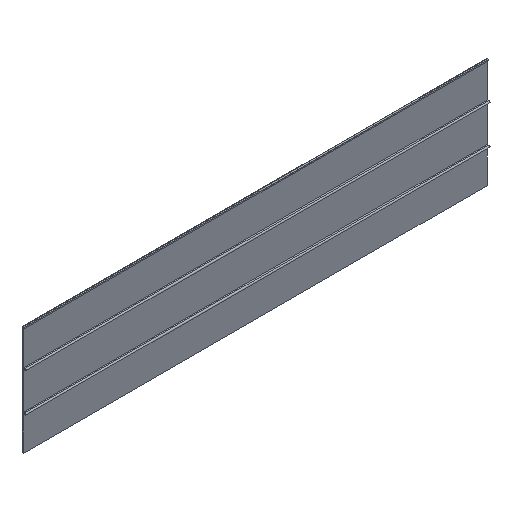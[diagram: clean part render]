
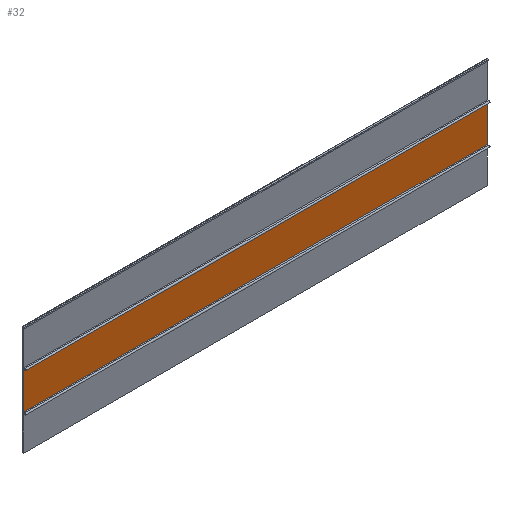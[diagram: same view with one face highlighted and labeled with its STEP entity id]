
A CAD part, isometric view. The second image highlights one B-rep face of the part: STEP entity #32.
In plain terms, the highlighted planar face has unit normal (0, -1, 0).
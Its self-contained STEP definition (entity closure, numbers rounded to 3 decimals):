
#16 = ORIENTED_EDGE ( 'NONE', *, *, #449, .T. ) ;
#32 = ADVANCED_FACE ( 'NONE', ( #408 ), #142, .T. ) ;
#43 = DIRECTION ( 'NONE',  ( -1., 0., 0. ) ) ;
#59 = LINE ( 'NONE', #86, #333 ) ;
#64 = CARTESIAN_POINT ( 'NONE',  ( 558.029, 31.318, 290.1 ) ) ;
#86 = CARTESIAN_POINT ( 'NONE',  ( -141.971, 31.318, 290.1 ) ) ;
#142 = PLANE ( 'NONE',  #298 ) ;
#165 = ORIENTED_EDGE ( 'NONE', *, *, #319, .T. ) ;
#198 = ORIENTED_EDGE ( 'NONE', *, *, #431, .T. ) ;
#200 = LINE ( 'NONE', #507, #584 ) ;
#228 = VERTEX_POINT ( 'NONE', #464 ) ;
#239 = CARTESIAN_POINT ( 'NONE',  ( -141.971, 31.318, 182.098 ) ) ;
#276 = VERTEX_POINT ( 'NONE', #320 ) ;
#283 = LINE ( 'NONE', #349, #354 ) ;
#289 = DIRECTION ( 'NONE',  ( 1., 0., 0. ) ) ;
#293 = ORIENTED_EDGE ( 'NONE', *, *, #532, .T. ) ;
#298 = AXIS2_PLACEMENT_3D ( 'NONE', #239, #480, #289 ) ;
#319 = EDGE_CURVE ( 'NONE', #379, #276, #59, .T. ) ;
#320 = CARTESIAN_POINT ( 'NONE',  ( -141.971, 31.318, 290.1 ) ) ;
#333 = VECTOR ( 'NONE', #43, 1000. ) ;
#349 = CARTESIAN_POINT ( 'NONE',  ( 558.029, 31.318, 182.098 ) ) ;
#352 = CARTESIAN_POINT ( 'NONE',  ( -141.971, 31.318, 233.9 ) ) ;
#354 = VECTOR ( 'NONE', #496, 1000. ) ;
#359 = DIRECTION ( 'NONE',  ( 0., 0., -1. ) ) ;
#379 = VERTEX_POINT ( 'NONE', #64 ) ;
#402 = DIRECTION ( 'NONE',  ( 1., 0., 0. ) ) ;
#408 = FACE_OUTER_BOUND ( 'NONE', #455, .T. ) ;
#431 = EDGE_CURVE ( 'NONE', #228, #433, #484, .T. ) ;
#433 = VERTEX_POINT ( 'NONE', #541 ) ;
#449 = EDGE_CURVE ( 'NONE', #433, #379, #283, .T. ) ;
#455 = EDGE_LOOP ( 'NONE', ( #165, #293, #198, #16 ) ) ;
#464 = CARTESIAN_POINT ( 'NONE',  ( -141.971, 31.318, 233.9 ) ) ;
#476 = VECTOR ( 'NONE', #402, 1000. ) ;
#480 = DIRECTION ( 'NONE',  ( 0., -1., 0. ) ) ;
#484 = LINE ( 'NONE', #352, #476 ) ;
#496 = DIRECTION ( 'NONE',  ( 0., 0., 1. ) ) ;
#507 = CARTESIAN_POINT ( 'NONE',  ( -141.971, 31.318, 182.098 ) ) ;
#532 = EDGE_CURVE ( 'NONE', #276, #228, #200, .T. ) ;
#541 = CARTESIAN_POINT ( 'NONE',  ( 558.029, 31.318, 233.9 ) ) ;
#584 = VECTOR ( 'NONE', #359, 1000. ) ;
